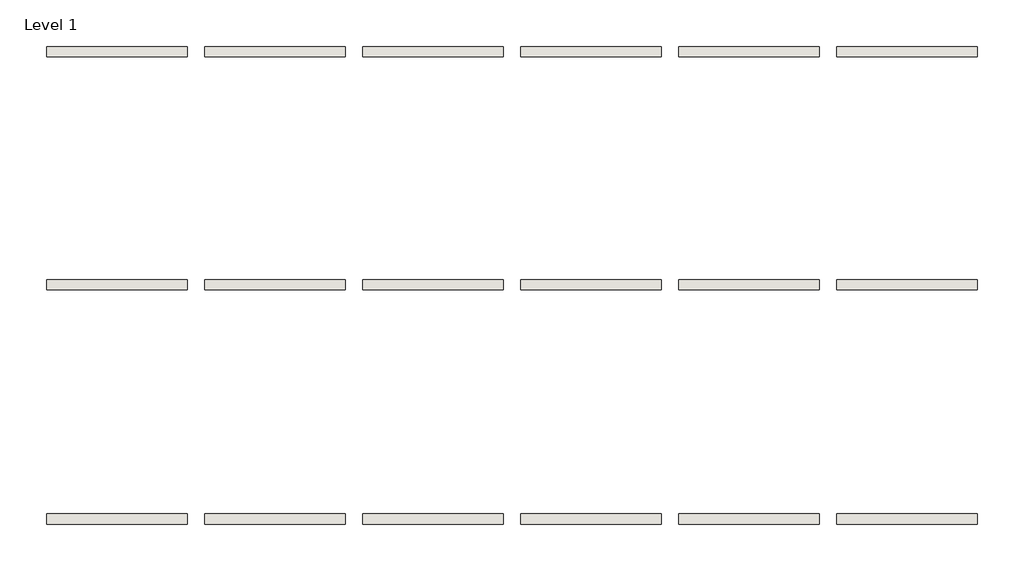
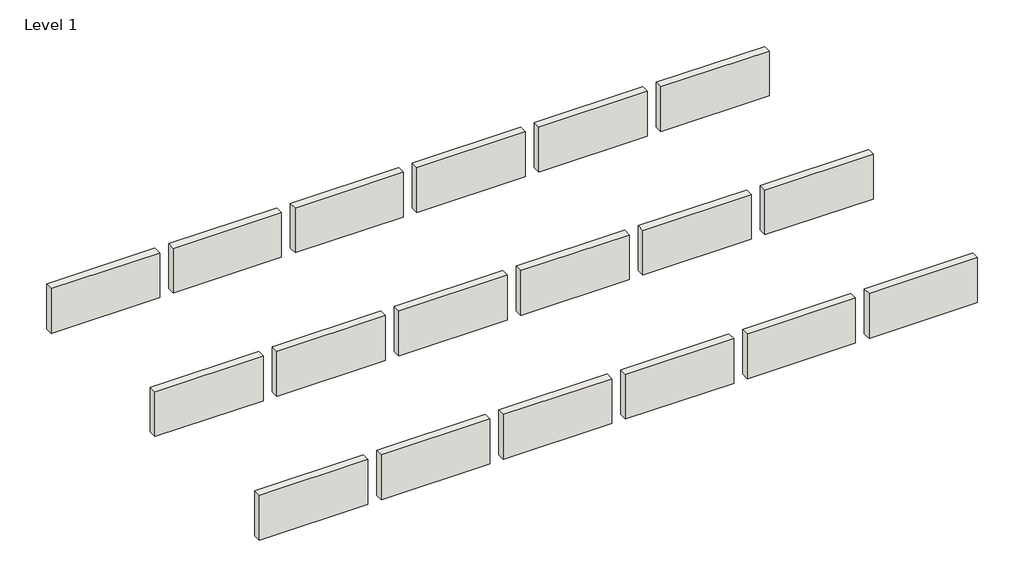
# One storey: 18 walls.
"""IFC4 building model written with IfcOpenShell, lengths in millimetres."""

from ifc_helpers import new_model, si_unit, origin, origin_with_axes, place, context, project, spatial, polyline, outline, extrude, element, save

model = new_model("IFC4")

# Units and contexts
model_context = context("Model", 3, world=origin())
ifc_project = project(units=[si_unit("LENGTHUNIT", "METRE", prefix="MILLI")], contexts=[model_context])

# Site, building, storey
site = spatial("IfcSite", under=ifc_project)
building = spatial("IfcBuilding", under=site)
storey = spatial("IfcBuildingStorey", under=building, Name="Level 1", Elevation=0.0)

# Walls
placement = place(None, origin())
element("IfcWall", 1, ObjectType="Brick - Empire Smooth-t8 - Watsontown Brick", at=placement, inside=storey, context=model_context, shape_type="SweptSolid", body=[
    extrude(outline(polyline([(61292.7878812, -8368.6786188), (60073.5878812, -8368.6786188), (60073.5878812, -8279.7786188), (61292.7878812, -8279.7786188), (61292.7878812, -8368.6786188)])), origin_with_axes(), (0.0, 0.0, 1.0), 533.4),
])
element("IfcWall", 2, ObjectType="Brick - Delaware - shm - Type2 - Watsontown Brick", at=placement, inside=storey, context=model_context, shape_type="SweptSolid", body=[
    extrude(outline(polyline([(59921.1878812, -8368.6786188), (58701.9878812, -8368.6786188), (58701.9878812, -8279.7786188), (59921.1878812, -8279.7786188), (59921.1878812, -8368.6786188)])), origin_with_axes(), (0.0, 0.0, 1.0), 533.4),
])
element("IfcWall", 3, ObjectType="Brick - Coal KT- Dark Mortar - Watsontown Brick", at=placement, inside=storey, context=model_context, shape_type="SweptSolid", body=[
    extrude(outline(polyline([(58549.5878812, -8368.6786188), (57330.3878812, -8368.6786188), (57330.3878812, -8279.7786188), (58549.5878812, -8279.7786188), (58549.5878812, -8368.6786188)])), origin_with_axes(), (0.0, 0.0, 1.0), 533.4),
])
element("IfcWall", 4, ObjectType="Brick - Chelsea - Flashed - Watsontown Brick", at=placement, inside=storey, context=model_context, shape_type="SweptSolid", body=[
    extrude(outline(polyline([(57177.9878812, -8368.6786188), (55958.7878812, -8368.6786188), (55958.7878812, -8279.7786188), (57177.9878812, -8279.7786188), (57177.9878812, -8368.6786188)])), origin_with_axes(), (0.0, 0.0, 1.0), 533.4),
])
element("IfcWall", 5, ObjectType="Brick - Burtonfield Sanded Smooth-t2 - Watsontown Brick", at=placement, inside=storey, context=model_context, shape_type="SweptSolid", body=[
    extrude(outline(polyline([(55806.3878812, -8368.6786188), (54587.1878812, -8368.6786188), (54587.1878812, -8279.7786188), (55806.3878812, -8279.7786188), (55806.3878812, -8368.6786188)])), origin_with_axes(), (0.0, 0.0, 1.0), 533.4),
])
element("IfcWall", 6, ObjectType="Brick - Arlington Sanded Smooth-t5 - Watsontown Brick", at=placement, inside=storey, context=model_context, shape_type="SweptSolid", body=[
    extrude(outline(polyline([(54434.7878812, -8368.6786188), (53215.5878812, -8368.6786188), (53215.5878812, -8279.7786188), (54434.7878812, -8279.7786188), (54434.7878812, -8368.6786188)])), origin_with_axes(), (0.0, 0.0, 1.0), 533.4),
])
element("IfcWall", 7, ObjectType="Brick - Georteowne Mudbox Watex-t2 - Watsontown Brick", at=placement, inside=storey, context=model_context, shape_type="SweptSolid", body=[
    extrude(outline(polyline([(54434.7878812, -6336.6786188), (53215.5878812, -6336.6786188), (53215.5878812, -6247.7786188), (54434.7878812, -6247.7786188), (54434.7878812, -6336.6786188)])), origin_with_axes(), (0.0, 0.0, 1.0), 533.4),
])
element("IfcWall", 8, ObjectType="Brick - Greenwich Smooth-t8 - Watsontown Brick", at=placement, inside=storey, context=model_context, shape_type="SweptSolid", body=[
    extrude(outline(polyline([(55806.3878812, -6336.6786188), (54587.1878812, -6336.6786188), (54587.1878812, -6247.7786188), (55806.3878812, -6247.7786188), (55806.3878812, -6336.6786188)])), origin_with_axes(), (0.0, 0.0, 1.0), 533.4),
])
element("IfcWall", 9, ObjectType="Brick - Keuka Mudbox - Watsontown Brick", at=placement, inside=storey, context=model_context, shape_type="SweptSolid", body=[
    extrude(outline(polyline([(57177.9878812, -6336.6786188), (55958.7878812, -6336.6786188), (55958.7878812, -6247.7786188), (57177.9878812, -6247.7786188), (57177.9878812, -6336.6786188)])), origin_with_axes(), (0.0, 0.0, 1.0), 533.4),
])
element("IfcWall", 10, ObjectType="Brick - Landover Smooth-t7 - Watsontown Brick", at=placement, inside=storey, context=model_context, shape_type="SweptSolid", body=[
    extrude(outline(polyline([(58549.5878812, -6336.6786188), (57330.3878812, -6336.6786188), (57330.3878812, -6247.7786188), (58549.5878812, -6247.7786188), (58549.5878812, -6336.6786188)])), origin_with_axes(), (0.0, 0.0, 1.0), 533.4),
])
element("IfcWall", 11, ObjectType="Brick - Malverne M1 Madison-1 - Watsontown Brick", at=placement, inside=storey, context=model_context, shape_type="SweptSolid", body=[
    extrude(outline(polyline([(59921.1878812, -6336.6786188), (58701.9878812, -6336.6786188), (58701.9878812, -6247.7786188), (59921.1878812, -6247.7786188), (59921.1878812, -6336.6786188)])), origin_with_axes(), (0.0, 0.0, 1.0), 533.4),
])
element("IfcWall", 12, ObjectType="Brick - Manhasset - M2 Madison-1 - Watsontown Brick", at=placement, inside=storey, context=model_context, shape_type="SweptSolid", body=[
    extrude(outline(polyline([(61292.7878812, -6336.6786188), (60073.5878812, -6336.6786188), (60073.5878812, -6247.7786188), (61292.7878812, -6247.7786188), (61292.7878812, -6336.6786188)])), origin_with_axes(), (0.0, 0.0, 1.0), 533.4),
])
element("IfcWall", 13, ObjectType="Brick - Old Tappan Mudbox - Watsontown Brick", at=placement, inside=storey, context=model_context, shape_type="SweptSolid", body=[
    extrude(outline(polyline([(54434.7878812, -4313.9592455), (53215.5878812, -4313.9592455), (53215.5878812, -4225.0592455), (54434.7878812, -4225.0592455), (54434.7878812, -4313.9592455)])), origin_with_axes(), (0.0, 0.0, 1.0), 533.4),
])
element("IfcWall", 14, ObjectType="Brick - Riverdale Smooth-t8 - Watsontown Brick", at=placement, inside=storey, context=model_context, shape_type="SweptSolid", body=[
    extrude(outline(polyline([(55806.3878812, -4313.9592455), (54587.1878812, -4313.9592455), (54587.1878812, -4225.0592455), (55806.3878812, -4225.0592455), (55806.3878812, -4313.9592455)])), origin_with_axes(), (0.0, 0.0, 1.0), 533.4),
])
element("IfcWall", 15, ObjectType="Brick - Scarsdale Kt-t7 - Watsontown Brick", at=placement, inside=storey, context=model_context, shape_type="SweptSolid", body=[
    extrude(outline(polyline([(57177.9878812, -4313.9592455), (55958.7878812, -4313.9592455), (55958.7878812, -4225.0592455), (57177.9878812, -4225.0592455), (57177.9878812, -4313.9592455)])), origin_with_axes(), (0.0, 0.0, 1.0), 533.4),
])
element("IfcWall", 16, ObjectType="Brick - Tidewater Matt - Type5 - Watsontown Brick", at=placement, inside=storey, context=model_context, shape_type="SweptSolid", body=[
    extrude(outline(polyline([(58549.5878812, -4313.9592455), (57330.3878812, -4313.9592455), (57330.3878812, -4225.0592455), (58549.5878812, -4225.0592455), (58549.5878812, -4313.9592455)])), origin_with_axes(), (0.0, 0.0, 1.0), 533.4),
])
element("IfcWall", 17, ObjectType="Brick - Walnut Mb Watex-t2 - Watsontown Brick", at=placement, inside=storey, context=model_context, shape_type="SweptSolid", body=[
    extrude(outline(polyline([(59921.1878812, -4313.9592455), (58701.9878812, -4313.9592455), (58701.9878812, -4225.0592455), (59921.1878812, -4225.0592455), (59921.1878812, -4313.9592455)])), origin_with_axes(), (0.0, 0.0, 1.0), 533.4),
])
element("IfcWall", 18, ObjectType="Brick - Woodlyn - shm - Type 2 - Watsontown Brick", at=placement, inside=storey, context=model_context, shape_type="SweptSolid", body=[
    extrude(outline(polyline([(61292.7878812, -4313.9592455), (60073.5878812, -4313.9592455), (60073.5878812, -4225.0592455), (61292.7878812, -4225.0592455), (61292.7878812, -4313.9592455)])), origin_with_axes(), (0.0, 0.0, 1.0), 533.4),
])

save(model, "model.ifc")
